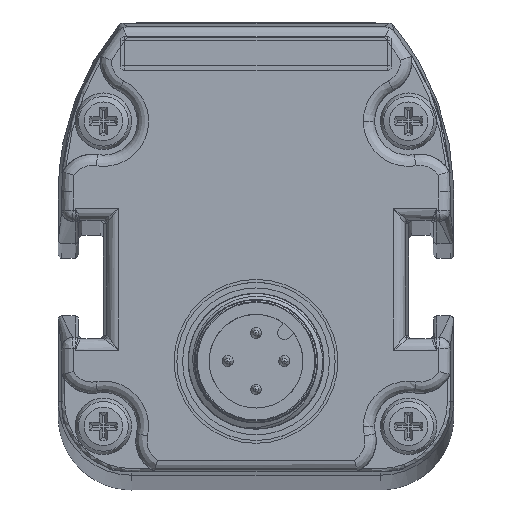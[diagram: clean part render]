
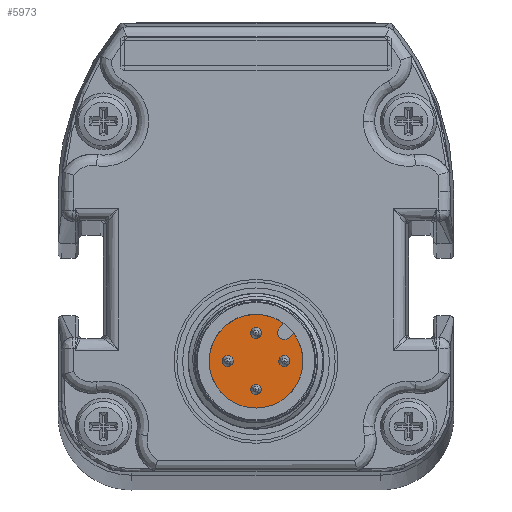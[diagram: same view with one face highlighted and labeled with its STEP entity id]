
A CAD part, top view. The second image highlights one B-rep face of the part: STEP entity #5973.
In plain terms, the highlighted planar face has unit normal (0, 0, 1) by its records, which use the part's own axes.
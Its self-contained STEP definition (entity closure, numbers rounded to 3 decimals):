
#3953=FACE_BOUND('',#7605,.T.);
#3954=FACE_BOUND('',#7606,.T.);
#3955=FACE_BOUND('',#7607,.T.);
#3956=FACE_BOUND('',#7608,.T.);
#3957=FACE_BOUND('',#7609,.T.);
#4383=PLANE('',#16556);
#4861=LINE('',#24569,#5442);
#4864=LINE('',#24575,#5445);
#5442=VECTOR('',#18444,1.);
#5445=VECTOR('',#18449,1.);
#5973=ADVANCED_FACE('',(#3953,#3954,#3955,#3956,#3957),#4383,.T.);
#7605=EDGE_LOOP('',(#10118));
#7606=EDGE_LOOP('',(#10119));
#7607=EDGE_LOOP('',(#10120));
#7608=EDGE_LOOP('',(#10121));
#7609=EDGE_LOOP('',(#10122,#10123,#10124,#10125));
#8265=CIRCLE('',#16521,0.5);
#8269=CIRCLE('',#16528,0.5);
#8273=CIRCLE('',#16535,0.5);
#8277=CIRCLE('',#16542,0.5);
#8280=CIRCLE('',#16549,0.6);
#8281=CIRCLE('',#16551,4.15);
#10118=ORIENTED_EDGE('',*,*,#14351,.T.);
#10119=ORIENTED_EDGE('',*,*,#14355,.T.);
#10120=ORIENTED_EDGE('',*,*,#14347,.T.);
#10121=ORIENTED_EDGE('',*,*,#14343,.T.);
#10122=ORIENTED_EDGE('',*,*,#14366,.T.);
#10123=ORIENTED_EDGE('',*,*,#14363,.T.);
#10124=ORIENTED_EDGE('',*,*,#14367,.F.);
#10125=ORIENTED_EDGE('',*,*,#14360,.T.);
#12864=VERTEX_POINT('',#24441);
#12868=VERTEX_POINT('',#24480);
#12872=VERTEX_POINT('',#24519);
#12876=VERTEX_POINT('',#24558);
#12881=VERTEX_POINT('',#24570);
#12882=VERTEX_POINT('',#24571);
#12883=VERTEX_POINT('',#24576);
#12884=VERTEX_POINT('',#24577);
#14343=EDGE_CURVE('',#12864,#12864,#8265,.T.);
#14347=EDGE_CURVE('',#12868,#12868,#8269,.T.);
#14351=EDGE_CURVE('',#12872,#12872,#8273,.T.);
#14355=EDGE_CURVE('',#12876,#12876,#8277,.T.);
#14360=EDGE_CURVE('',#12881,#12882,#4861,.T.);
#14363=EDGE_CURVE('',#12883,#12884,#4864,.T.);
#14366=EDGE_CURVE('',#12882,#12883,#8280,.T.);
#14367=EDGE_CURVE('',#12881,#12884,#8281,.T.);
#16521=AXIS2_PLACEMENT_3D('',#24440,#18390,#18391);
#16528=AXIS2_PLACEMENT_3D('',#24479,#18404,#18405);
#16535=AXIS2_PLACEMENT_3D('',#24518,#18418,#18419);
#16542=AXIS2_PLACEMENT_3D('',#24557,#18432,#18433);
#16549=AXIS2_PLACEMENT_3D('',#24581,#18454,#18455);
#16551=AXIS2_PLACEMENT_3D('',#24583,#18458,#18459);
#16556=AXIS2_PLACEMENT_3D('',#24590,#18468,#18469);
#18390=DIRECTION('',(0.,0.,-1.));
#18391=DIRECTION('',(1.,0.,0.));
#18404=DIRECTION('',(0.,0.,-1.));
#18405=DIRECTION('',(1.,0.,0.));
#18418=DIRECTION('',(0.,0.,-1.));
#18419=DIRECTION('',(1.,0.,0.));
#18432=DIRECTION('',(0.,0.,-1.));
#18433=DIRECTION('',(1.,0.,0.));
#18444=DIRECTION('',(-0.707,-0.707,0.));
#18449=DIRECTION('',(0.707,0.707,0.));
#18454=DIRECTION('',(0.,0.,-1.));
#18455=DIRECTION('',(1.,0.,0.));
#18458=DIRECTION('',(0.,0.,-1.));
#18459=DIRECTION('',(1.,0.,0.));
#18468=DIRECTION('',(0.,0.,1.));
#18469=DIRECTION('',(-1.,0.,0.));
#24440=CARTESIAN_POINT('',(79.513,7.557,1689.168));
#24441=CARTESIAN_POINT('',(80.013,7.557,1689.168));
#24479=CARTESIAN_POINT('',(84.513,7.557,1689.168));
#24480=CARTESIAN_POINT('',(85.013,7.557,1689.168));
#24518=CARTESIAN_POINT('',(82.013,10.057,1689.168));
#24519=CARTESIAN_POINT('',(82.513,10.057,1689.168));
#24557=CARTESIAN_POINT('',(82.013,5.057,1689.168));
#24558=CARTESIAN_POINT('',(82.513,5.057,1689.168));
#24569=CARTESIAN_POINT('',(85.341,10.036,1689.168));
#24570=CARTESIAN_POINT('',(85.341,10.036,1689.168));
#24571=CARTESIAN_POINT('',(84.947,9.643,1689.168));
#24575=CARTESIAN_POINT('',(84.099,10.492,1689.168));
#24576=CARTESIAN_POINT('',(84.099,10.492,1689.168));
#24577=CARTESIAN_POINT('',(84.492,10.885,1689.168));
#24581=CARTESIAN_POINT('',(84.523,10.067,1689.168));
#24583=CARTESIAN_POINT('',(82.013,7.557,1689.168));
#24590=CARTESIAN_POINT('',(82.013,7.557,1689.168));
